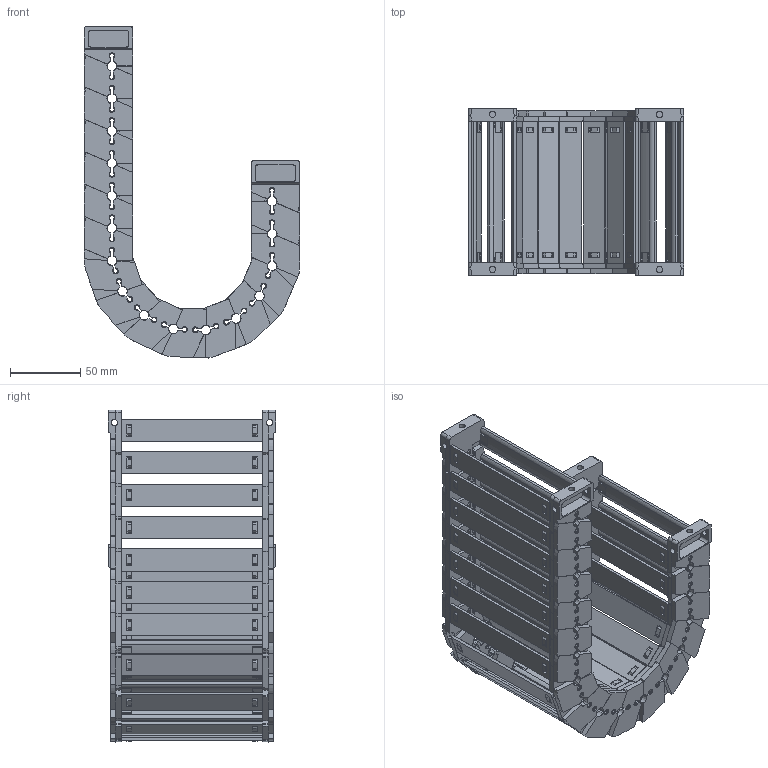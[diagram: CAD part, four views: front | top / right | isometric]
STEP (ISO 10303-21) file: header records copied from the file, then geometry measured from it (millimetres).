
FILE_DESCRIPTION((''),'2;1');
FILE_NAME('JY-28X100-R55_ASM','2026-05-07T14:47:31',('admin'),(''),'CREO PARAMETRIC BY PTC INC, 2021023','CREO PARAMETRIC BY PTC INC, 2021023','');
FILE_SCHEMA(('CONFIG_CONTROL_DESIGN'));
Length unit declared in the file: millimetre
Products named in the file (11): 28XL-L; 25-35XL-YP; 28XL-R; ASM0001_ASM; 28-LTT-A-L; 28-LTT-A-R; 28XL-LTT-A_ASM; 28-LTT-B-L; 28-LTT-B-R; 28XL-LTT-B_ASM; JY-28X100-R55_ASM
Assembly tree (29 placements, depth 3):
  JY-28X100-R55_ASM
    ASM0001_ASM  x15
      28XL-L
      25-35XL-YP
      28XL-R
    28XL-LTT-A_ASM
      28-LTT-A-L
      25-35XL-YP  x2
      28-LTT-A-R
    28XL-LTT-B_ASM
      28-LTT-B-L
      25-35XL-YP  x2
      28-LTT-B-R
Bounding box: 153.11 x 119 x 235.62 mm (x, y, z)
Volume: 346783.5 mm3; surface area: 250612.8 mm2
Topology: 68 solids, 68 shells, 5486 faces, 16300 edges, 10882 vertices
Faces by surface type: plane 3597, cone 973, cylinder 796, bspline 120
Entity records: 29071 total; most frequent: CARTESIAN_POINT 9487, ORIENTED_EDGE 4352, DIRECTION 3649, EDGE_CURVE 2176, VERTEX_POINT 1454, VECTOR 1365, LINE 1365, AXIS2_PLACEMENT_3D 1142
